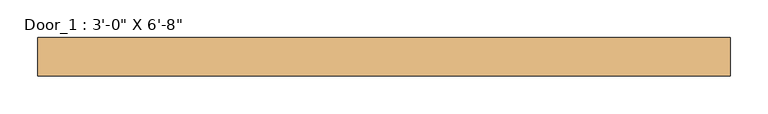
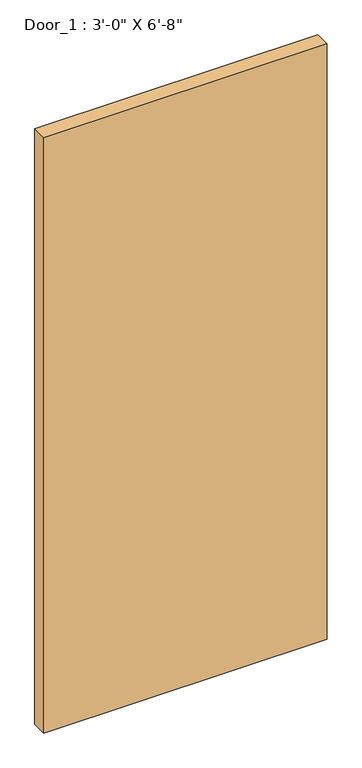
"""IFC4 building model written with IfcOpenShell, lengths in millimetres: door geometry."""

from ifc_helpers import new_model, si_unit, origin, origin_with_axes, place, context, project, spatial, polyline, outline, extrude, source, transform, mapped, element, save


def door_eaf6c470(model_context):
    return source(origin(), model_context, "Body", "SweptSolid", [
        extrude(outline(polyline([(457.2, 27.1893842), (-457.2, 27.1893842), (-457.2, 77.9893842), (457.2, 77.9893842), (457.2, 27.1893842)])), origin_with_axes(), (0.0, 0.0, 1.0), 2032.0),
    ])


if __name__ == "__main__":
    model = new_model("IFC4")
    model_context = context("Model", 3, world=origin())
    ifc_project = project(units=[si_unit("LENGTHUNIT", "METRE", prefix="MILLI")], contexts=[model_context])
    site = spatial("IfcSite", under=ifc_project)
    building = spatial("IfcBuilding", under=site)
    placement = place(None, origin())
    door_shape = door_eaf6c470(model_context)
    element("IfcDoor", 1, ObjectType="Door_1 : 3'-0\" X 6'-8\"", at=placement, inside=building, context=model_context, shape_type="MappedRepresentation", body=[
        mapped(door_shape, transform((0.0, 0.0, 0.0), x_axis=(1.0, 0.0, 0.0), y_axis=(0.0, 1.0, 0.0), z_axis=(0.0, 0.0, 1.0))),
    ])
    save(model, "model.ifc")
